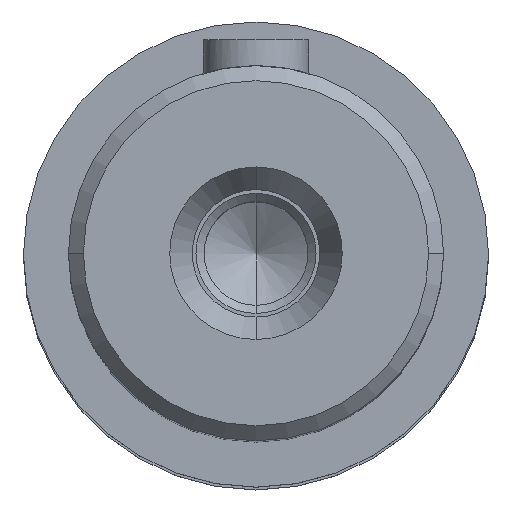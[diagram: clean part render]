
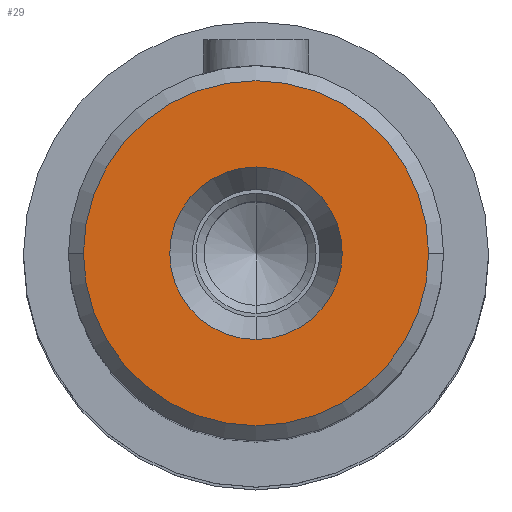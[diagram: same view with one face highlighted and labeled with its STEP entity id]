
A CAD part, top view. The second image highlights one B-rep face of the part: STEP entity #29.
In plain terms, the highlighted planar face has unit normal (0, 0, 1) as drawn and (1, 0, 0) by its records, which use the part's own axes.
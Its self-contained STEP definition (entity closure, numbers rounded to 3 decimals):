
#29=ADVANCED_FACE('',(#70,#57),#498,.T.);
#57=FACE_BOUND('',#110,.T.);
#70=FACE_OUTER_BOUND('',#109,.T.);
#109=EDGE_LOOP('',(#180,#181));
#110=EDGE_LOOP('',(#182,#183));
#180=ORIENTED_EDGE('',*,*,#288,.F.);
#181=ORIENTED_EDGE('',*,*,#291,.F.);
#182=ORIENTED_EDGE('',*,*,#337,.F.);
#183=ORIENTED_EDGE('',*,*,#310,.F.);
#288=EDGE_CURVE('',#456,#459,#347,.T.);
#291=EDGE_CURVE('',#459,#456,#349,.T.);
#310=EDGE_CURVE('',#458,#484,#358,.T.);
#337=EDGE_CURVE('',#484,#458,#373,.T.);
#347=TRIMMED_CURVE($,#383,(#1079),(#1080),.T.,.CARTESIAN.);
#349=TRIMMED_CURVE($,#385,(#1087),(#1088),.T.,.CARTESIAN.);
#358=TRIMMED_CURVE($,#394,(#1134),(#1135),.T.,.CARTESIAN.);
#373=TRIMMED_CURVE($,#409,(#1203),(#1204),.T.,.CARTESIAN.);
#383=CIRCLE('',#731,23.);
#385=CIRCLE('',#733,23.);
#394=CIRCLE('',#742,11.5);
#409=CIRCLE('',#757,11.5);
#456=VERTEX_POINT('',#988);
#458=VERTEX_POINT('',#990);
#459=VERTEX_POINT('',#991);
#484=VERTEX_POINT('',#1016);
#498=PLANE('',#706);
#706=AXIS2_PLACEMENT_3D('',#888,#774,$);
#731=AXIS2_PLACEMENT_3D($,#1078,#808,#809);
#733=AXIS2_PLACEMENT_3D($,#1086,#812,#813);
#742=AXIS2_PLACEMENT_3D($,#1133,#830,#831);
#757=AXIS2_PLACEMENT_3D($,#1202,#860,#861);
#774=DIRECTION('',(1.,0.,0.));
#808=DIRECTION('',(-1.,0.,0.));
#809=DIRECTION('',(0.,0.,1.));
#812=DIRECTION('',(-1.,0.,0.));
#813=DIRECTION('',(0.,0.,-1.));
#830=DIRECTION('',(1.,0.,0.));
#831=DIRECTION('',(0.,1.,0.));
#860=DIRECTION('',(1.,0.,0.));
#861=DIRECTION('',(0.,-1.,0.));
#888=CARTESIAN_POINT('',(210.,-27.66,-27.66));
#988=CARTESIAN_POINT('',(210.,0.,23.));
#990=CARTESIAN_POINT('',(210.,11.5,0.));
#991=CARTESIAN_POINT('',(210.,0.,-23.));
#1016=CARTESIAN_POINT('',(210.,-11.5,0.));
#1078=CARTESIAN_POINT('',(210.,0.,0.));
#1079=CARTESIAN_POINT('',(210.,0.,23.));
#1080=CARTESIAN_POINT('',(210.,0.,-23.));
#1086=CARTESIAN_POINT('',(210.,0.,0.));
#1087=CARTESIAN_POINT('',(210.,0.,-23.));
#1088=CARTESIAN_POINT('',(210.,0.,23.));
#1133=CARTESIAN_POINT('',(210.,0.,0.));
#1134=CARTESIAN_POINT('',(210.,11.5,0.));
#1135=CARTESIAN_POINT('',(210.,-11.5,0.));
#1202=CARTESIAN_POINT('',(210.,0.,0.));
#1203=CARTESIAN_POINT('',(210.,-11.5,0.));
#1204=CARTESIAN_POINT('',(210.,11.5,0.));
